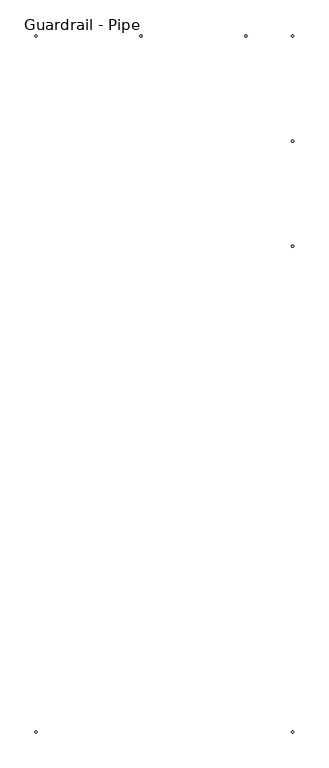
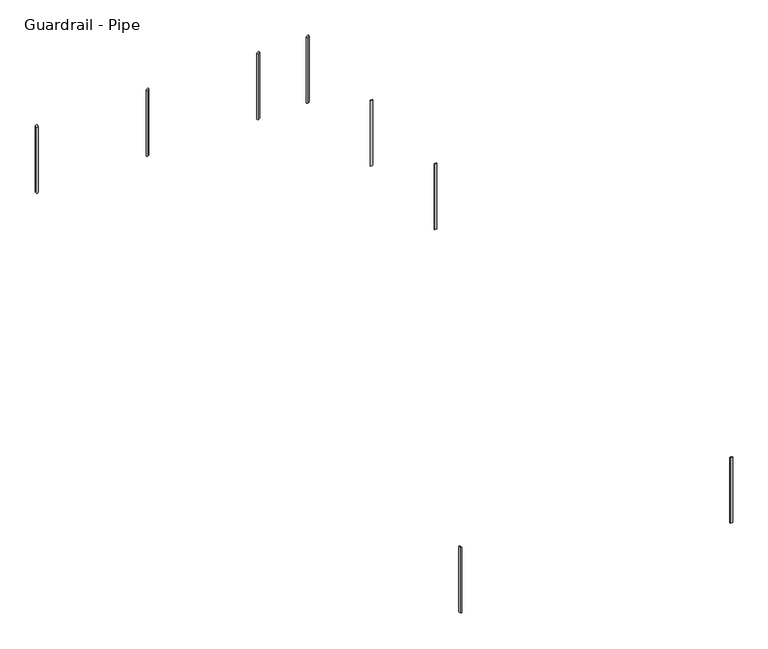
"""IFC4 building model written with IfcOpenShell, lengths in millimetres: railing geometry, Guardrail - Pipe."""

from ifc_helpers import new_model, si_unit, frame, origin, place, context, project, spatial, ellipse_curve, source, transform, mapped, element, save
from ifc_brep_helpers import plane_surface, cylinder_surface, advanced_brep


def guardrail_pipe_aaa3e98f(model_context):
    return source(origin(), model_context, "Body", "AdvancedBrep", [
        advanced_brep(
        [(13945.6313552, 38471.4, 8077.2), (13945.6313552, 38471.4, 7315.2), (13971.0313552, 38471.4, 7315.2), (13971.0313552, 38471.4, 8077.2)],
        [
            (0, 1),
            (1, 2, ellipse_curve(frame((13958.3313552, 38471.4, 7315.2), z_axis=(0.0, 0.536857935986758, 0.8436726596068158), x_axis=(0.0, -0.8436726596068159, 0.536857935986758)), 15.0532317, 12.7)),
            (2, 3),
            (3, 0, ellipse_curve(frame((13958.3313552, 38471.4, 8077.2), z_axis=(0.0, -0.5368579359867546, -0.8436726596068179), x_axis=(0.0, -0.843672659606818, 0.5368579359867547)), 15.0532317, 12.7)),
            (0, 3, ellipse_curve(frame((13958.3313552, 38471.4, 8077.2), z_axis=(0.0, -0.5368579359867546, -0.8436726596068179), x_axis=(0.0, -0.843672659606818, 0.5368579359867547)), 15.0532317, 12.7)),
            (2, 1, ellipse_curve(frame((13958.3313552, 38471.4, 7315.2), z_axis=(0.0, 0.536857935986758, 0.8436726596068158), x_axis=(0.0, -0.8436726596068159, 0.536857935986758)), 15.0532317, 12.7)),
        ],
        [
            cylinder_surface(frame((13958.3313552, 38471.4, 7086.6), z_axis=(0.0, 0.0, 1.0), x_axis=(1.0, 0.0, 0.0)), 12.7),
            plane_surface(frame((13983.7313552, 38446.0, 8093.3628938), z_axis=(0.0, 0.5368579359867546, 0.8436726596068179), x_axis=(-1.0, 0.0, 0.0))),
            plane_surface(frame((13983.7313552, 38496.8, 7299.0371062), z_axis=(0.0, -0.536857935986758, -0.8436726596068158), x_axis=(-1.0, 0.0, 0.0))),
        ],
        [
            (0, [[1, 2, 3, 4]]),
            (0, [[-1, 5, -3, 6]]),
            (1, [[-4, -5]]),
            (2, [[-2, -6]]),
        ],
    ),
        advanced_brep(
        [(13945.6313552, 39690.6, 8077.2), (13945.6313552, 39690.6, 7315.2), (13971.0313552, 39690.6, 7315.2), (13971.0313552, 39690.6, 8077.2)],
        [
            (0, 1),
            (1, 2, ellipse_curve(frame((13958.3313552, 39690.6, 7315.2), z_axis=(0.0, 0.536857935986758, 0.8436726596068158), x_axis=(0.0, -0.8436726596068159, 0.536857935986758)), 15.0532317, 12.7)),
            (2, 3),
            (3, 0, ellipse_curve(frame((13958.3313552, 39690.6, 8077.2), z_axis=(0.0, -0.5368579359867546, -0.8436726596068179), x_axis=(0.0, -0.843672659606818, 0.5368579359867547)), 15.0532317, 12.7)),
            (0, 3, ellipse_curve(frame((13958.3313552, 39690.6, 8077.2), z_axis=(0.0, -0.5368579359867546, -0.8436726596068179), x_axis=(0.0, -0.843672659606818, 0.5368579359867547)), 15.0532317, 12.7)),
            (2, 1, ellipse_curve(frame((13958.3313552, 39690.6, 7315.2), z_axis=(0.0, 0.536857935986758, 0.8436726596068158), x_axis=(0.0, -0.8436726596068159, 0.536857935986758)), 15.0532317, 12.7)),
        ],
        [
            cylinder_surface(frame((13958.3313552, 39690.6, 7086.6), z_axis=(0.0, 0.0, 1.0), x_axis=(1.0, 0.0, 0.0)), 12.7),
            plane_surface(frame((13983.7313552, 39665.2, 8093.3628938), z_axis=(0.0, 0.5368579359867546, 0.8436726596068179), x_axis=(-1.0, 0.0, 0.0))),
            plane_surface(frame((13983.7313552, 39716.0, 7299.0371062), z_axis=(0.0, -0.536857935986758, -0.8436726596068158), x_axis=(-1.0, 0.0, 0.0))),
        ],
        [
            (0, [[1, 2, 3, 4]]),
            (0, [[-1, 5, -3, 6]]),
            (1, [[-4, -5]]),
            (2, [[-2, -6]]),
        ],
    ),
        advanced_brep(
        [(13413.9313551, 40897.1, 8077.2), (13413.9313551, 40897.1, 7315.2), (13413.9313551, 40922.5, 7315.2), (13413.9313551, 40922.5, 8077.2)],
        [
            (0, 1),
            (1, 2, ellipse_curve(frame((13413.9313551, 40909.8, 7315.2), z_axis=(-0.536857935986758, 0.0, 0.8436726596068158), x_axis=(0.8436726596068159, 0.0, 0.536857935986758)), 15.0532317, 12.7)),
            (2, 3),
            (3, 0, ellipse_curve(frame((13413.9313551, 40909.8, 8077.2), z_axis=(0.5368579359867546, 0.0, -0.8436726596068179), x_axis=(0.843672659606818, 0.0, 0.5368579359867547)), 15.0532317, 12.7)),
            (0, 3, ellipse_curve(frame((13413.9313551, 40909.8, 8077.2), z_axis=(0.5368579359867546, 0.0, -0.8436726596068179), x_axis=(0.843672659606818, 0.0, 0.5368579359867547)), 15.0532317, 12.7)),
            (2, 1, ellipse_curve(frame((13413.9313551, 40909.8, 7315.2), z_axis=(-0.536857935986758, 0.0, 0.8436726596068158), x_axis=(0.8436726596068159, 0.0, 0.536857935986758)), 15.0532317, 12.7)),
        ],
        [
            cylinder_surface(frame((13413.9313551, 40909.8, 7086.6), z_axis=(0.0, 0.0, 1.0), x_axis=(0.0, 1.0, 0.0)), 12.7),
            plane_surface(frame((13439.3313551, 40935.2, 8093.3628938), z_axis=(-0.5368579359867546, 0.0, 0.8436726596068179), x_axis=(0.0, -1.0, 0.0))),
            plane_surface(frame((13388.5313551, 40935.2, 7299.0371062), z_axis=(0.536857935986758, 0.0, -0.8436726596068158), x_axis=(0.0, -1.0, 0.0))),
        ],
        [
            (0, [[1, 2, 3, 4]]),
            (0, [[-1, 5, -3, 6]]),
            (1, [[-4, -5]]),
            (2, [[-2, -6]]),
        ],
    ),
        advanced_brep(
        [(12194.7313551, 40897.1, 8077.2), (12194.7313551, 40897.1, 7315.2), (12194.7313551, 40922.5, 7315.2), (12194.7313551, 40922.5, 8077.2)],
        [
            (0, 1),
            (1, 2, ellipse_curve(frame((12194.7313551, 40909.8, 7315.2), z_axis=(-0.536857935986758, 0.0, 0.8436726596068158), x_axis=(0.8436726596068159, 0.0, 0.536857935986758)), 15.0532317, 12.7)),
            (2, 3),
            (3, 0, ellipse_curve(frame((12194.7313551, 40909.8, 8077.2), z_axis=(0.5368579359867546, 0.0, -0.8436726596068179), x_axis=(0.843672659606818, 0.0, 0.5368579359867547)), 15.0532317, 12.7)),
            (0, 3, ellipse_curve(frame((12194.7313551, 40909.8, 8077.2), z_axis=(0.5368579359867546, 0.0, -0.8436726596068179), x_axis=(0.843672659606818, 0.0, 0.5368579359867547)), 15.0532317, 12.7)),
            (2, 1, ellipse_curve(frame((12194.7313551, 40909.8, 7315.2), z_axis=(-0.536857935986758, 0.0, 0.8436726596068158), x_axis=(0.8436726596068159, 0.0, 0.536857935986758)), 15.0532317, 12.7)),
        ],
        [
            cylinder_surface(frame((12194.7313551, 40909.8, 7086.6), z_axis=(0.0, 0.0, 1.0), x_axis=(0.0, 1.0, 0.0)), 12.7),
            plane_surface(frame((12220.1313551, 40935.2, 8093.3628938), z_axis=(-0.5368579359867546, 0.0, 0.8436726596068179), x_axis=(0.0, -1.0, 0.0))),
            plane_surface(frame((12169.3313551, 40935.2, 7299.0371062), z_axis=(0.536857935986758, 0.0, -0.8436726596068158), x_axis=(0.0, -1.0, 0.0))),
        ],
        [
            (0, [[1, 2, 3, 4]]),
            (0, [[-1, 5, -3, 6]]),
            (1, [[-4, -5]]),
            (2, [[-2, -6]]),
        ],
    ),
        advanced_brep(
        [(10988.2313551, 40909.8, 8077.2), (10988.2313551, 40909.8, 7315.2), (10962.8313551, 40909.8, 7315.2), (10962.8313551, 40909.8, 8077.2)],
        [
            (0, 1),
            (1, 2, ellipse_curve(frame((10975.5313551, 40909.8, 7315.2), z_axis=(0.0, -0.536857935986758, 0.8436726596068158), x_axis=(0.0, 0.8436726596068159, 0.536857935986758)), 15.0532317, 12.7)),
            (2, 3),
            (3, 0, ellipse_curve(frame((10975.5313551, 40909.8, 8077.2), z_axis=(0.0, 0.5368579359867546, -0.8436726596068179), x_axis=(0.0, 0.843672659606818, 0.5368579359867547)), 15.0532317, 12.7)),
            (0, 3, ellipse_curve(frame((10975.5313551, 40909.8, 8077.2), z_axis=(0.0, 0.5368579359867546, -0.8436726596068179), x_axis=(0.0, 0.843672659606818, 0.5368579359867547)), 15.0532317, 12.7)),
            (2, 1, ellipse_curve(frame((10975.5313551, 40909.8, 7315.2), z_axis=(0.0, -0.536857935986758, 0.8436726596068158), x_axis=(0.0, 0.8436726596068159, 0.536857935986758)), 15.0532317, 12.7)),
        ],
        [
            cylinder_surface(frame((10975.5313551, 40909.8, 7086.6), z_axis=(0.0, 0.0, 1.0), x_axis=(-1.0, 0.0, 0.0)), 12.7),
            plane_surface(frame((10950.1313551, 40935.2, 8093.3628938), z_axis=(0.0, -0.5368579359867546, 0.8436726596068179), x_axis=(1.0, 0.0, 0.0))),
            plane_surface(frame((10950.1313551, 40884.4, 7299.0371062), z_axis=(0.0, 0.536857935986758, -0.8436726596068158), x_axis=(1.0, 0.0, 0.0))),
        ],
        [
            (0, [[1, 2, 3, 4]]),
            (0, [[-1, 5, -3, 6]]),
            (1, [[-4, -5]]),
            (2, [[-2, -6]]),
        ],
    ),
        advanced_brep(
        [(10975.5313551, 32845.3, 8077.2), (10975.5313551, 32845.3, 7315.2), (10975.5313551, 32819.9, 7315.2), (10975.5313551, 32819.9, 8077.2)],
        [
            (0, 1),
            (1, 2, ellipse_curve(frame((10975.5313551, 32832.6, 7315.2), z_axis=(0.536857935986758, 0.0, 0.8436726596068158), x_axis=(-0.8436726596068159, 0.0, 0.536857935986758)), 15.0532317, 12.7)),
            (2, 3),
            (3, 0, ellipse_curve(frame((10975.5313551, 32832.6, 8077.2), z_axis=(-0.5368579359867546, 0.0, -0.8436726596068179), x_axis=(-0.843672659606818, 0.0, 0.5368579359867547)), 15.0532317, 12.7)),
            (0, 3, ellipse_curve(frame((10975.5313551, 32832.6, 8077.2), z_axis=(-0.5368579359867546, 0.0, -0.8436726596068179), x_axis=(-0.843672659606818, 0.0, 0.5368579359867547)), 15.0532317, 12.7)),
            (2, 1, ellipse_curve(frame((10975.5313551, 32832.6, 7315.2), z_axis=(0.536857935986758, 0.0, 0.8436726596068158), x_axis=(-0.8436726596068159, 0.0, 0.536857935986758)), 15.0532317, 12.7)),
        ],
        [
            cylinder_surface(frame((10975.5313551, 32832.6, 7086.6), z_axis=(0.0, 0.0, 1.0), x_axis=(0.0, -1.0, 0.0)), 12.7),
            plane_surface(frame((10950.1313551, 32807.2, 8093.3628938), z_axis=(0.5368579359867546, 0.0, 0.8436726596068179), x_axis=(0.0, 1.0, 0.0))),
            plane_surface(frame((11000.9313551, 32807.2, 7299.0371062), z_axis=(-0.536857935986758, 0.0, -0.8436726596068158), x_axis=(0.0, 1.0, 0.0))),
        ],
        [
            (0, [[1, 2, 3, 4]]),
            (0, [[-1, 5, -3, 6]]),
            (1, [[-4, -5]]),
            (2, [[-2, -6]]),
        ],
    ),
        advanced_brep(
        [(13945.6313552, 32832.6, 8077.2), (13945.6313552, 32832.6, 7315.2), (13971.0313552, 32832.6, 7315.2), (13971.0313552, 32832.6, 8077.2)],
        [
            (0, 1),
            (1, 2, ellipse_curve(frame((13958.3313552, 32832.6, 7315.2), z_axis=(0.0, 0.536857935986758, 0.8436726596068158), x_axis=(0.0, -0.8436726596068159, 0.536857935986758)), 15.0532317, 12.7)),
            (2, 3),
            (3, 0, ellipse_curve(frame((13958.3313552, 32832.6, 8077.2), z_axis=(0.0, -0.5368579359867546, -0.8436726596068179), x_axis=(0.0, -0.843672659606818, 0.5368579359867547)), 15.0532317, 12.7)),
            (0, 3, ellipse_curve(frame((13958.3313552, 32832.6, 8077.2), z_axis=(0.0, -0.5368579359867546, -0.8436726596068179), x_axis=(0.0, -0.843672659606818, 0.5368579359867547)), 15.0532317, 12.7)),
            (2, 1, ellipse_curve(frame((13958.3313552, 32832.6, 7315.2), z_axis=(0.0, 0.536857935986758, 0.8436726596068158), x_axis=(0.0, -0.8436726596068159, 0.536857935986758)), 15.0532317, 12.7)),
        ],
        [
            cylinder_surface(frame((13958.3313552, 32832.6, 7086.6), z_axis=(0.0, 0.0, 1.0), x_axis=(1.0, 0.0, 0.0)), 12.7),
            plane_surface(frame((13983.7313552, 32807.2, 8093.3628938), z_axis=(0.0, 0.5368579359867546, 0.8436726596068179), x_axis=(-1.0, 0.0, 0.0))),
            plane_surface(frame((13983.7313552, 32858.0, 7299.0371062), z_axis=(0.0, -0.536857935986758, -0.8436726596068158), x_axis=(-1.0, 0.0, 0.0))),
        ],
        [
            (0, [[1, 2, 3, 4]]),
            (0, [[-1, 5, -3, 6]]),
            (1, [[-4, -5]]),
            (2, [[-2, -6]]),
        ],
    ),
        advanced_brep(
        [(13958.3313552, 40897.1, 8077.2), (13958.3313552, 40897.1, 7315.2), (13958.3313552, 40922.5, 7315.2), (13958.3313552, 40922.5, 8077.2)],
        [
            (0, 1),
            (1, 2, ellipse_curve(frame((13958.3313552, 40909.8, 7315.2), z_axis=(-0.536857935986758, 0.0, 0.8436726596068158), x_axis=(0.8436726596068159, 0.0, 0.536857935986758)), 15.0532317, 12.7)),
            (2, 3),
            (3, 0, ellipse_curve(frame((13958.3313552, 40909.8, 8077.2), z_axis=(0.5368579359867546, 0.0, -0.8436726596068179), x_axis=(0.843672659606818, 0.0, 0.5368579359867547)), 15.0532317, 12.7)),
            (0, 3, ellipse_curve(frame((13958.3313552, 40909.8, 8077.2), z_axis=(0.5368579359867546, 0.0, -0.8436726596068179), x_axis=(0.843672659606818, 0.0, 0.5368579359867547)), 15.0532317, 12.7)),
            (2, 1, ellipse_curve(frame((13958.3313552, 40909.8, 7315.2), z_axis=(-0.536857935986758, 0.0, 0.8436726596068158), x_axis=(0.8436726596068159, 0.0, 0.536857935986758)), 15.0532317, 12.7)),
        ],
        [
            cylinder_surface(frame((13958.3313552, 40909.8, 7086.6), z_axis=(0.0, 0.0, 1.0), x_axis=(0.0, 1.0, 0.0)), 12.7),
            plane_surface(frame((13983.7313552, 40935.2, 8093.3628938), z_axis=(-0.5368579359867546, 0.0, 0.8436726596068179), x_axis=(0.0, -1.0, 0.0))),
            plane_surface(frame((13932.9313552, 40935.2, 7299.0371062), z_axis=(0.536857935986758, 0.0, -0.8436726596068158), x_axis=(0.0, -1.0, 0.0))),
        ],
        [
            (0, [[1, 2, 3, 4]]),
            (0, [[-1, 5, -3, 6]]),
            (1, [[-4, -5]]),
            (2, [[-2, -6]]),
        ],
    ),
    ])


if __name__ == "__main__":
    model = new_model("IFC4")
    model_context = context("Model", 3, world=origin())
    ifc_project = project(units=[si_unit("LENGTHUNIT", "METRE", prefix="MILLI")], contexts=[model_context])
    site = spatial("IfcSite", under=ifc_project)
    building = spatial("IfcBuilding", under=site)
    placement = place(None, origin())
    guardrail_pipe_shape = guardrail_pipe_aaa3e98f(model_context)
    element("IfcRailing", 1, ObjectType="Guardrail - Pipe", at=placement, inside=building, context=model_context, shape_type="MappedRepresentation", body=[
        mapped(guardrail_pipe_shape, transform((0.0, 0.0, 0.0), x_axis=(1.0, 0.0, 0.0), y_axis=(0.0, 1.0, 0.0), z_axis=(0.0, 0.0, 1.0))),
    ])
    save(model, "model.ifc")
